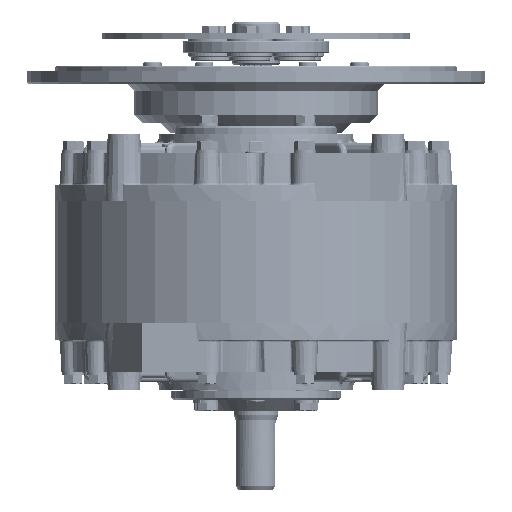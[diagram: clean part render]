
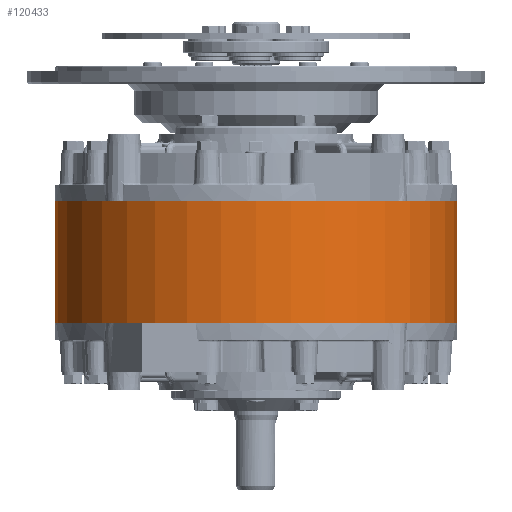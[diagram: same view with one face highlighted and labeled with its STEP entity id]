
A CAD part, front view. The second image highlights one B-rep face of the part: STEP entity #120433.
In plain terms, the highlighted cylindrical face has radius 157.48 mm (diameter 314.96 mm), a partial arc.
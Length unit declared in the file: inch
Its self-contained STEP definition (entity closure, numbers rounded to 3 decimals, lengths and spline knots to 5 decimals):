
#1404 = DIRECTION ( 'NONE',  ( 0., 0., -1. ) ) ;
#1996 = CIRCLE ( 'NONE', #97605, 6.2 ) ;
#4822 = DIRECTION ( 'NONE',  ( 0., 0., 1. ) ) ;
#11582 = CARTESIAN_POINT ( 'NONE',  ( 6.2, 0., 0. ) ) ;
#12322 = DIRECTION ( 'NONE',  ( 0., 0., -1. ) ) ;
#12615 = CARTESIAN_POINT ( 'NONE',  ( 6.2, 0., -1.5 ) ) ;
#14927 = VERTEX_POINT ( 'NONE', #17546 ) ;
#17546 = CARTESIAN_POINT ( 'NONE',  ( -6.2, 0., -5.25 ) ) ;
#17918 = DIRECTION ( 'NONE',  ( 1., 0., 0. ) ) ;
#19605 = CARTESIAN_POINT ( 'NONE',  ( -6.2, 0., -1.5 ) ) ;
#24818 = ORIENTED_EDGE ( 'NONE', *, *, #53758, .T. ) ;
#25183 = VERTEX_POINT ( 'NONE', #42699 ) ;
#34483 = DIRECTION ( 'NONE',  ( -1., 0., 0. ) ) ;
#38421 = CARTESIAN_POINT ( 'NONE',  ( 0., 0., -1.5 ) ) ;
#42699 = CARTESIAN_POINT ( 'NONE',  ( 6.2, 0., -5.25 ) ) ;
#45895 = DIRECTION ( 'NONE',  ( -1., 0., 0. ) ) ;
#53758 = EDGE_CURVE ( 'NONE', #142046, #14927, #118196, .T. ) ;
#69257 = EDGE_LOOP ( 'NONE', ( #83786, #136762, #24818, #80093 ) ) ;
#74142 = CARTESIAN_POINT ( 'NONE',  ( 0., 0., 0. ) ) ;
#77570 = DIRECTION ( 'NONE',  ( 0., 0., -1. ) ) ;
#80093 = ORIENTED_EDGE ( 'NONE', *, *, #114636, .F. ) ;
#81258 = EDGE_CURVE ( 'NONE', #142046, #136636, #111884, .T. ) ;
#83786 = ORIENTED_EDGE ( 'NONE', *, *, #132467, .F. ) ;
#92534 = LINE ( 'NONE', #11582, #132953 ) ;
#94165 = CARTESIAN_POINT ( 'NONE',  ( -6.2, 0., 0. ) ) ;
#97605 = AXIS2_PLACEMENT_3D ( 'NONE', #113034, #1404, #45895 ) ;
#98757 = AXIS2_PLACEMENT_3D ( 'NONE', #74142, #77570, #34483 ) ;
#111884 = CIRCLE ( 'NONE', #121246, 6.2 ) ;
#113034 = CARTESIAN_POINT ( 'NONE',  ( 0., 0., -5.25 ) ) ;
#114636 = EDGE_CURVE ( 'NONE', #25183, #14927, #1996, .T. ) ;
#118196 = LINE ( 'NONE', #94165, #140568 ) ;
#120433 = ADVANCED_FACE ( 'NONE', ( #126001 ), #121331, .T. ) ;
#121246 = AXIS2_PLACEMENT_3D ( 'NONE', #38421, #4822, #17918 ) ;
#121331 = CYLINDRICAL_SURFACE ( 'NONE', #98757, 6.2 ) ;
#126001 = FACE_OUTER_BOUND ( 'NONE', #69257, .T. ) ;
#132467 = EDGE_CURVE ( 'NONE', #136636, #25183, #92534, .T. ) ;
#132953 = VECTOR ( 'NONE', #12322, 39.37008 ) ;
#136636 = VERTEX_POINT ( 'NONE', #12615 ) ;
#136762 = ORIENTED_EDGE ( 'NONE', *, *, #81258, .F. ) ;
#138658 = DIRECTION ( 'NONE',  ( 0., 0., -1. ) ) ;
#140568 = VECTOR ( 'NONE', #138658, 39.37008 ) ;
#142046 = VERTEX_POINT ( 'NONE', #19605 ) ;
